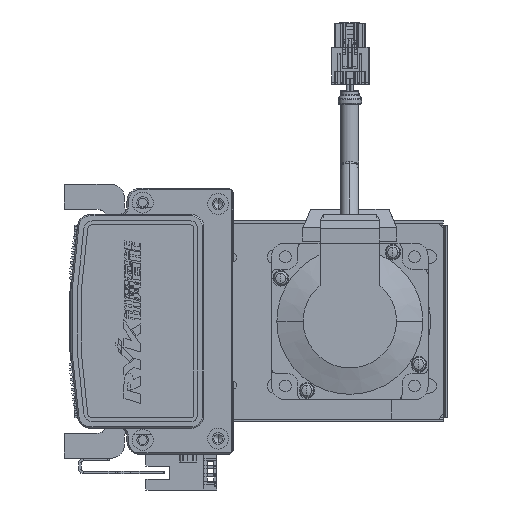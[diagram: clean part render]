
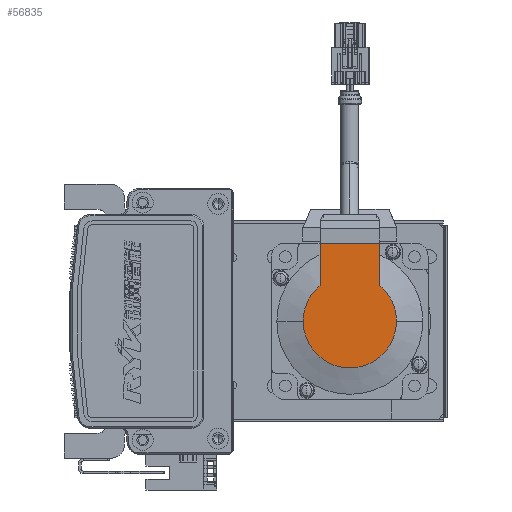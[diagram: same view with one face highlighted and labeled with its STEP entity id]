
A CAD part, left-side view. The second image highlights one B-rep face of the part: STEP entity #56835.
In plain terms, the highlighted planar face has unit normal (-1, 0, 0).
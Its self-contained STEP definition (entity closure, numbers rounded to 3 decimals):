
#471 = AXIS2_PLACEMENT_3D ( 'NONE', #47955, #33317, #18674 ) ;
#1269 = DIRECTION ( 'NONE',  ( -1., 0., 0. ) ) ;
#6589 = DIRECTION ( 'NONE',  ( 0., -1., 0. ) ) ;
#7382 = CARTESIAN_POINT ( 'NONE',  ( -99., 13.735, -11.45 ) ) ;
#9567 = VECTOR ( 'NONE', #93149, 1000. ) ;
#9942 = CARTESIAN_POINT ( 'NONE',  ( -99., 30., -11.45 ) ) ;
#10846 = CARTESIAN_POINT ( 'NONE',  ( -99., 0., 11.45 ) ) ;
#11324 = VERTEX_POINT ( 'NONE', #70828 ) ;
#13656 = AXIS2_PLACEMENT_3D ( 'NONE', #16411, #76167, #23887 ) ;
#16411 = CARTESIAN_POINT ( 'NONE',  ( -99., 0., 0. ) ) ;
#16426 = CARTESIAN_POINT ( 'NONE',  ( -99., 0., 17.881 ) ) ;
#18674 = DIRECTION ( 'NONE',  ( 0., 0., -1. ) ) ;
#20617 = CARTESIAN_POINT ( 'NONE',  ( -99., 0., 0. ) ) ;
#22165 = FACE_OUTER_BOUND ( 'NONE', #26213, .T. ) ;
#22360 = LINE ( 'NONE', #65266, #9567 ) ;
#23887 = DIRECTION ( 'NONE',  ( 0., 0., -1. ) ) ;
#26160 = AXIS2_PLACEMENT_3D ( 'NONE', #39959, #1269, #53325 ) ;
#26213 = EDGE_LOOP ( 'NONE', ( #76438, #60565, #45749, #87225, #36773, #85203 ) ) ;
#26705 = VECTOR ( 'NONE', #6589, 1000. ) ;
#27768 = DIRECTION ( 'NONE',  ( -1., 0., 0. ) ) ;
#33317 = DIRECTION ( 'NONE',  ( -1., 0., 0. ) ) ;
#35007 = AXIS2_PLACEMENT_3D ( 'NONE', #20617, #27768, #65499 ) ;
#35555 = EDGE_CURVE ( 'NONE', #79041, #37262, #49949, .T. ) ;
#36773 = ORIENTED_EDGE ( 'NONE', *, *, #68187, .F. ) ;
#37262 = VERTEX_POINT ( 'NONE', #16426 ) ;
#39959 = CARTESIAN_POINT ( 'NONE',  ( -99., -8.941, 0. ) ) ;
#42927 = VERTEX_POINT ( 'NONE', #7382 ) ;
#45749 = ORIENTED_EDGE ( 'NONE', *, *, #35555, .T. ) ;
#47955 = CARTESIAN_POINT ( 'NONE',  ( -99., 0., 0. ) ) ;
#49949 = CIRCLE ( 'NONE', #13656, 17.881 ) ;
#53325 = DIRECTION ( 'NONE',  ( 0., 0., 1. ) ) ;
#55570 = EDGE_CURVE ( 'NONE', #61672, #93062, #22360, .T. ) ;
#56835 = ADVANCED_FACE ( 'NONE', ( #22165 ), #91236, .T. ) ;
#57443 = CARTESIAN_POINT ( 'NONE',  ( -99., 0., -17.881 ) ) ;
#60565 = ORIENTED_EDGE ( 'NONE', *, *, #95930, .T. ) ;
#61672 = VERTEX_POINT ( 'NONE', #9942 ) ;
#62445 = LINE ( 'NONE', #10846, #70526 ) ;
#62854 = DIRECTION ( 'NONE',  ( 0., -1., 0. ) ) ;
#65266 = CARTESIAN_POINT ( 'NONE',  ( -99., 30., 25. ) ) ;
#65499 = DIRECTION ( 'NONE',  ( 0., 0., -1. ) ) ;
#68187 = EDGE_CURVE ( 'NONE', #93062, #11324, #62445, .T. ) ;
#68478 = CIRCLE ( 'NONE', #471, 17.881 ) ;
#70526 = VECTOR ( 'NONE', #62854, 1000. ) ;
#70828 = CARTESIAN_POINT ( 'NONE',  ( -99., 13.735, 11.45 ) ) ;
#75465 = EDGE_CURVE ( 'NONE', #37262, #11324, #77904, .T. ) ;
#76167 = DIRECTION ( 'NONE',  ( -1., 0., 0. ) ) ;
#76438 = ORIENTED_EDGE ( 'NONE', *, *, #91610, .T. ) ;
#77904 = CIRCLE ( 'NONE', #35007, 17.881 ) ;
#79041 = VERTEX_POINT ( 'NONE', #57443 ) ;
#79721 = CARTESIAN_POINT ( 'NONE',  ( -99., 30., 11.45 ) ) ;
#85203 = ORIENTED_EDGE ( 'NONE', *, *, #55570, .F. ) ;
#87225 = ORIENTED_EDGE ( 'NONE', *, *, #75465, .T. ) ;
#88478 = CARTESIAN_POINT ( 'NONE',  ( -99., -8.941, -11.45 ) ) ;
#91236 = PLANE ( 'NONE',  #26160 ) ;
#91610 = EDGE_CURVE ( 'NONE', #61672, #42927, #96450, .T. ) ;
#93062 = VERTEX_POINT ( 'NONE', #79721 ) ;
#93149 = DIRECTION ( 'NONE',  ( 0., 0., 1. ) ) ;
#95930 = EDGE_CURVE ( 'NONE', #42927, #79041, #68478, .T. ) ;
#96450 = LINE ( 'NONE', #88478, #26705 ) ;
